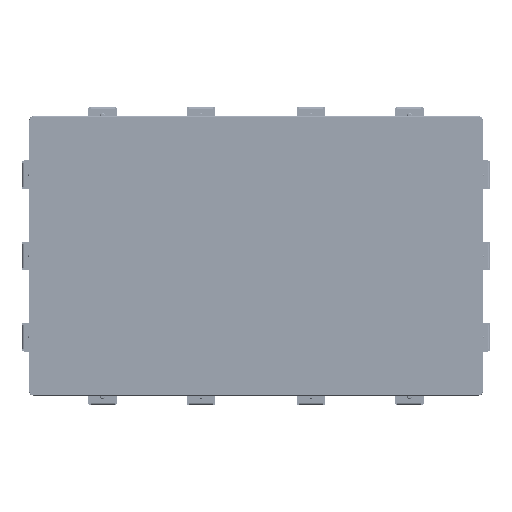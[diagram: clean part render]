
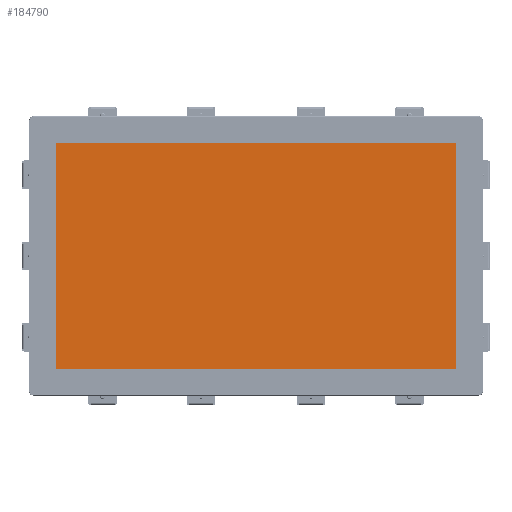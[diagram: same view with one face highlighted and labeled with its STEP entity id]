
A CAD part, top view. The second image highlights one B-rep face of the part: STEP entity #184790.
In plain terms, the highlighted planar face has unit normal (0, 0, 1).
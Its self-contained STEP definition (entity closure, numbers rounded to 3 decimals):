
#5979 = ORIENTED_EDGE ( 'NONE', *, *, #275273, .F. ) ;
#9179 = VERTEX_POINT ( 'NONE', #253353 ) ;
#12857 = CARTESIAN_POINT ( 'NONE',  ( -172.75, 97.5, 5.86 ) ) ;
#22170 = CARTESIAN_POINT ( 'NONE',  ( 172.75, 32.5, 5.865 ) ) ;
#42624 = VECTOR ( 'NONE', #215627, 1000. ) ;
#57328 = CARTESIAN_POINT ( 'NONE',  ( 172.75, -32.5, 5.865 ) ) ;
#71695 = CARTESIAN_POINT ( 'NONE',  ( -172.75, 32.5, 5.865 ) ) ;
#73711 = AXIS2_PLACEMENT_3D ( 'NONE', #340186, #160067, #220073 ) ;
#77235 = ORIENTED_EDGE ( 'NONE', *, *, #170616, .F. ) ;
#83415 = CARTESIAN_POINT ( 'NONE',  ( 172.75, 97.5, 5.86 ) ) ;
#85034 = VERTEX_POINT ( 'NONE', #141769 ) ;
#98133 = CARTESIAN_POINT ( 'NONE',  ( 0., 97.5, 5.855 ) ) ;
#99064 = ORIENTED_EDGE ( 'NONE', *, *, #306165, .F. ) ;
#100460 = CARTESIAN_POINT ( 'NONE',  ( -172.75, -32.5, 5.865 ) ) ;
#122894 = CARTESIAN_POINT ( 'NONE',  ( 172.75, -97.5, 5.86 ) ) ;
#129248 = CARTESIAN_POINT ( 'NONE',  ( -172.75, -97.5, 5.86 ) ) ;
#141769 = CARTESIAN_POINT ( 'NONE',  ( -172.75, -97.5, 5.86 ) ) ;
#154718 = LINE ( 'NONE', #189095, #322895 ) ;
#158729 = VERTEX_POINT ( 'NONE', #12857 ) ;
#160067 = DIRECTION ( 'NONE',  ( 0., 0., -1. ) ) ;
#170616 = EDGE_CURVE ( 'NONE', #9179, #212713, #301332, .T. ) ;
#173330 = LINE ( 'NONE', #98133, #42624 ) ;
#176135 = CARTESIAN_POINT ( 'NONE',  ( 172.75, -97.5, 5.86 ) ) ;
#184790 = ADVANCED_FACE ( 'NONE', ( #225821 ), #281367, .F. ) ;
#189095 = CARTESIAN_POINT ( 'NONE',  ( 0., -97.5, 5.855 ) ) ;
#212713 = VERTEX_POINT ( 'NONE', #122894 ) ;
#215627 = DIRECTION ( 'NONE',  ( 1., 0., 0. ) ) ;
#220073 = DIRECTION ( 'NONE',  ( -1., 0., 0. ) ) ;
#225413 = EDGE_LOOP ( 'NONE', ( #77235, #5979, #99064, #360230 ) ) ;
#225821 = FACE_OUTER_BOUND ( 'NONE', #225413, .T. ) ;
#228539 = B_SPLINE_CURVE_WITH_KNOTS ( 'NONE', 3,
 ( #129248, #100460, #71695, #368230 ),
 .UNSPECIFIED., .F., .F.,
 ( 4, 4 ),
 ( 0., 1. ),
 .UNSPECIFIED. ) ;
#253353 = CARTESIAN_POINT ( 'NONE',  ( 172.75, 97.5, 5.86 ) ) ;
#275273 = EDGE_CURVE ( 'NONE', #158729, #9179, #173330, .T. ) ;
#275839 = EDGE_CURVE ( 'NONE', #212713, #85034, #154718, .T. ) ;
#281367 = PLANE ( 'NONE',  #73711 ) ;
#301332 = B_SPLINE_CURVE_WITH_KNOTS ( 'NONE', 3,
 ( #83415, #22170, #57328, #176135 ),
 .UNSPECIFIED., .F., .F.,
 ( 4, 4 ),
 ( 0., 1. ),
 .UNSPECIFIED. ) ;
#306165 = EDGE_CURVE ( 'NONE', #85034, #158729, #228539, .T. ) ;
#322895 = VECTOR ( 'NONE', #340478, 1000. ) ;
#340186 = CARTESIAN_POINT ( 'NONE',  ( 0., 0., 5.855 ) ) ;
#340478 = DIRECTION ( 'NONE',  ( -1., 0., 0. ) ) ;
#360230 = ORIENTED_EDGE ( 'NONE', *, *, #275839, .F. ) ;
#368230 = CARTESIAN_POINT ( 'NONE',  ( -172.75, 97.5, 5.86 ) ) ;
